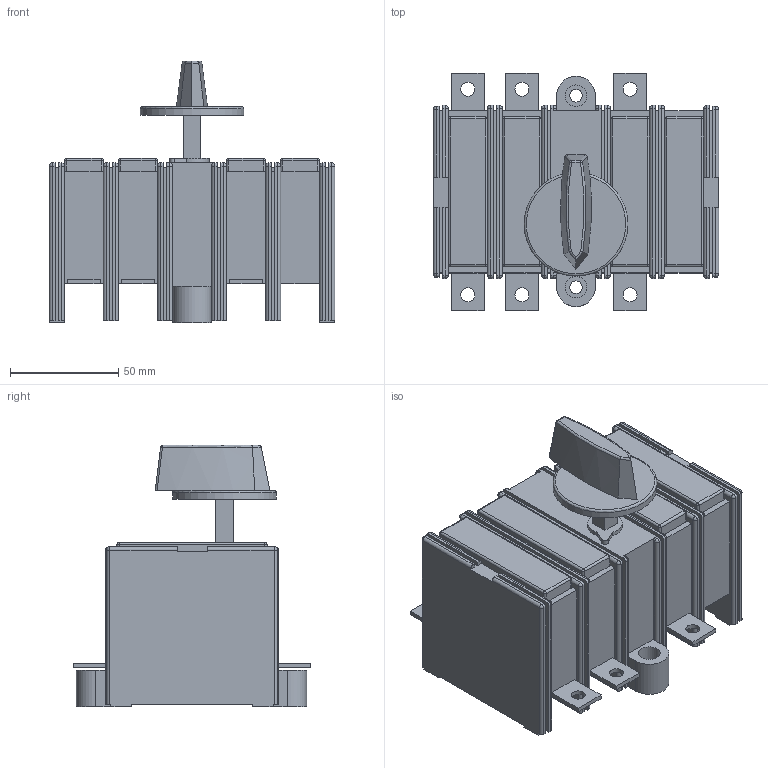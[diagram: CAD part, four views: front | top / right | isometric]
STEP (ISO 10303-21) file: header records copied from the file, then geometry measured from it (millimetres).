
FILE_DESCRIPTION(/* description */ (''),/* implementation_level */ '2;1');
FILE_NAME(/* name */ 'RA100 P3 R.stp',/* time_stamp */ '2021-08-17T12:51:44+02:00',/* author */ (''),/* organization */ (''),/* preprocessor_version */ 'ST-DEVELOPER v18.1',/* originating_system */ 'SIEMENS PLM Software NX 1965',/* authorisation */ '');
FILE_SCHEMA (('FEATURE_BASED_PROCESS_PLANNING','AP242_MANAGED_MODEL_BASED_3D_ENGINEERING_MIM_LF { 1 0 10303 442 1 1 4 }'));
Length unit declared in the file: millimetre
Products named in the file (1): RA100 P3 R_stp
Bounding box: 132 x 110 x 121 mm (x, y, z)
Volume: 676195.7 mm3; surface area: 82683.8 mm2
Topology: 1 solids, 1 shells, 376 faces, 1000 edges, 589 vertices
Faces by surface type: plane 211, cylinder 116, sphere 41, bspline 7, torus 1
Full cylindrical faces by diameter (mm): 5.8 x2, 6.5 x6, 10 x2, 48 x1
Entity records: 11259 total; most frequent: CARTESIAN_POINT 2131, DIRECTION 1890, ORIENTED_EDGE 1884, EDGE_CURVE 942, LINE 688, VECTOR 688, AXIS2_PLACEMENT_3D 601, VERTEX_POINT 585
